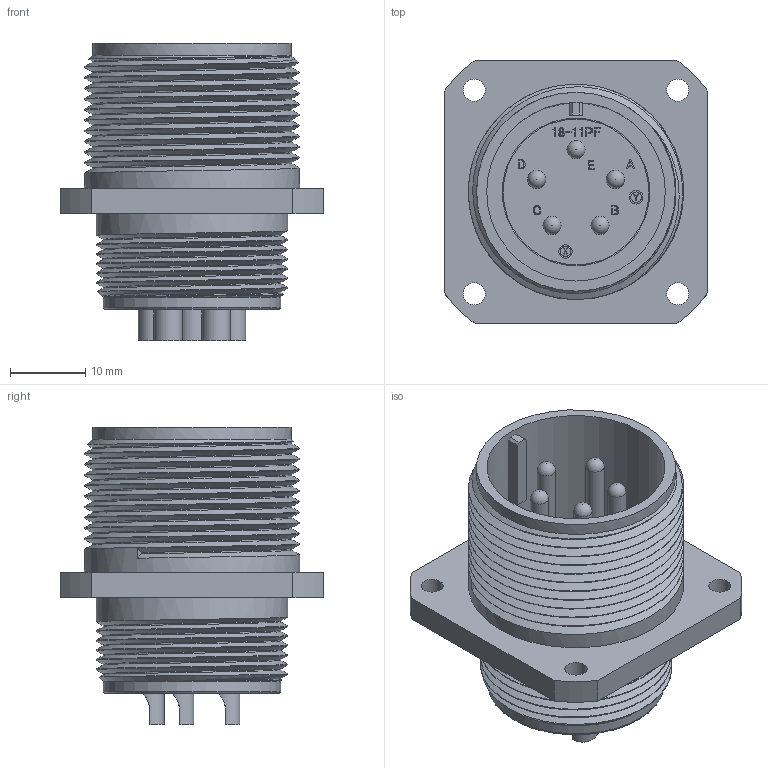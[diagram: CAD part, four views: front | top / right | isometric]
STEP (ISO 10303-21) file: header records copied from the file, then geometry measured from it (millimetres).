
FILE_DESCRIPTION (( 'STEP AP203' ), '1' );
FILE_NAME ('DMS3100A18-11P(D263).STEP', '2022-01-28T01:09:16', ( '' ), ( '' ), 'SwSTEP 2.0', 'SolidWorks 2018', '' );
FILE_SCHEMA (( 'CONFIG_CONTROL_DESIGN' ));
Length unit declared in the file: millimetre
Products named in the file (1): DMS3100A18-11P(D263)
Bounding box: 34.92 x 34.92 x 39.47 mm (x, y, z)
Volume: 11798.8 mm3; surface area: 10410.5 mm2
Topology: 1 solids, 1 shells, 586 faces, 1516 edges, 1001 vertices
Faces by surface type: plane 306, bspline 184, cylinder 83, torus 11, cone 2
Full cylindrical faces by diameter (mm): 1.4 x2, 1.8 x2, 2.41 x5, 2.85 x5, 2.93 x4, 3.79 x5, 3.9 x5, 17.45 x1, 19.33 x1, 19.59 x1, 21.08 x1, 23.5 x1, 23.68 x1, 25.36 x6, 26.35 x1, 28.53 x10
Entity records: 24662 total; most frequent: CARTESIAN_POINT 12161, ORIENTED_EDGE 2820, DIRECTION 1915, EDGE_CURVE 1410, VERTEX_POINT 956, LINE 897, VECTOR 897, EDGE_LOOP 692
